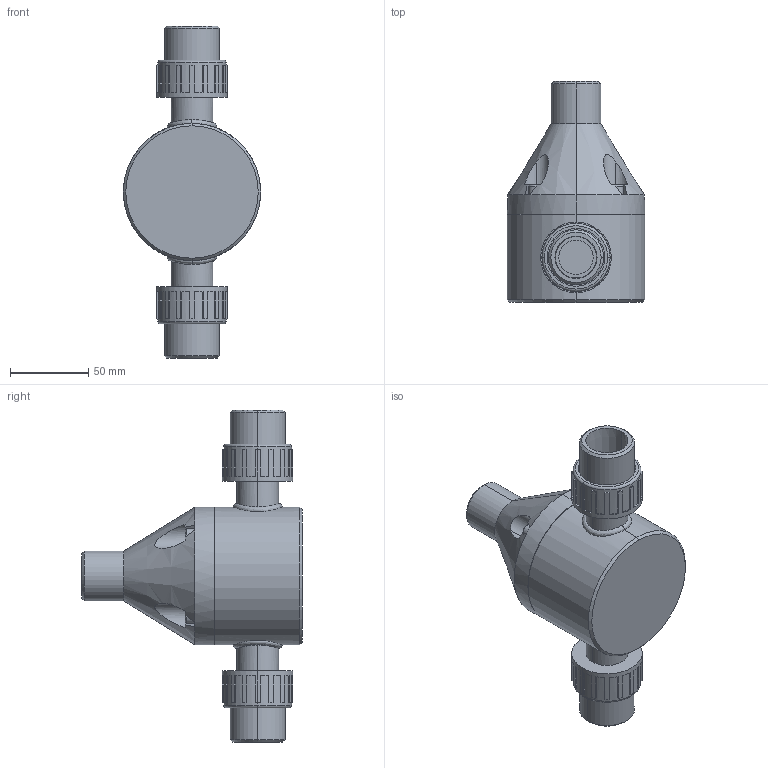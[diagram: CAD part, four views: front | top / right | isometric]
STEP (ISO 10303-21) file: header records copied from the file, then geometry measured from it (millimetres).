
FILE_DESCRIPTION (( 'STEP AP203' ), '1' );
FILE_NAME ('GBP0750-UNION.STEP', '2016-09-01T08:58:03', ( '' ), ( '' ), 'SwSTEP 2.0', 'SolidWorks 2014', '' );
FILE_SCHEMA (( 'CONFIG_CONTROL_DESIGN' ));
Length unit declared in the file: inch
Products named in the file (2): GBP0750-UNION
Bounding box: 87.63 x 140.97 x 211.84 mm (x, y, z)
Volume: 652102.1 mm3; surface area: 75325 mm2
Topology: 1 solids, 3 shells, 303 faces, 784 edges, 510 vertices
Faces by surface type: plane 213, cylinder 52, cone 26, bspline 6, torus 6
Entity records: 11518 total; most frequent: CARTESIAN_POINT 3788, DIRECTION 1628, ORIENTED_EDGE 1568, EDGE_CURVE 784, AXIS2_PLACEMENT_3D 581, VERTEX_POINT 510, LINE 466, VECTOR 466
